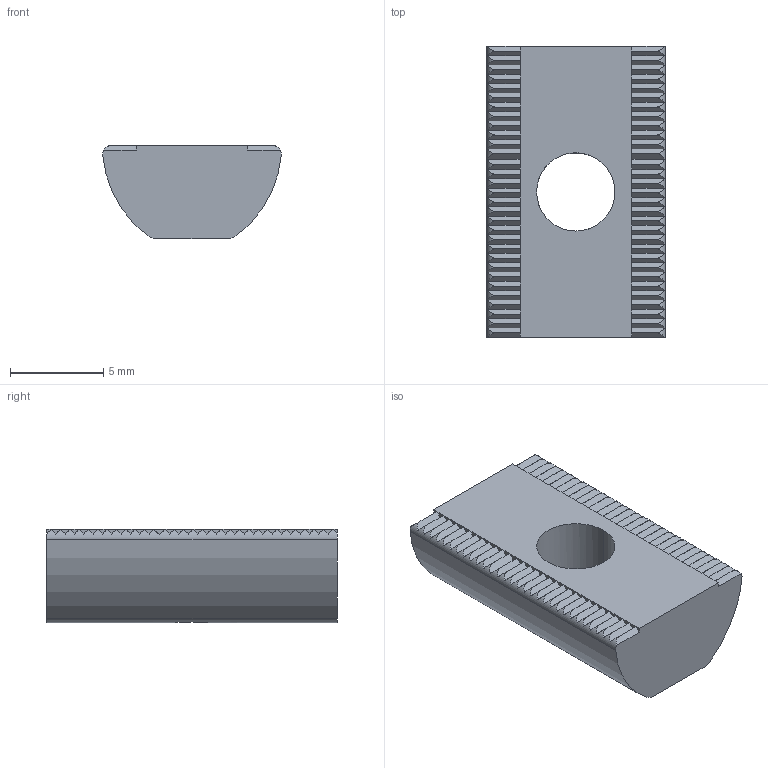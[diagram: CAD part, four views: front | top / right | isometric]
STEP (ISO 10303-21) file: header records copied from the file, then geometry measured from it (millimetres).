
FILE_DESCRIPTION (( 'STEP AP214' ), '1' );
FILE_NAME ('J3M5FDE.step', '2017-05-24T07:39:28', ( 'admin' ), ( '' ), 'SwSTEP 2.0', 'SolidWorks 2014', '' );
FILE_SCHEMA (( 'AUTOMOTIVE_DESIGN' ));
Length unit declared in the file: millimetre
Products named in the file (1): J3M5FDE
Bounding box: 9.57 x 15.6 x 5 mm (x, y, z)
Volume: 550 mm3; surface area: 533.3 mm2
Topology: 1 solids, 1 shells, 201 faces, 476 edges, 276 vertices
Faces by surface type: plane 193, cylinder 8
Entity records: 5586 total; most frequent: CARTESIAN_POINT 1346, ORIENTED_EDGE 952, DIRECTION 768, EDGE_CURVE 476, VECTOR 332, LINE 332, VERTEX_POINT 276, AXIS2_PLACEMENT_3D 218
